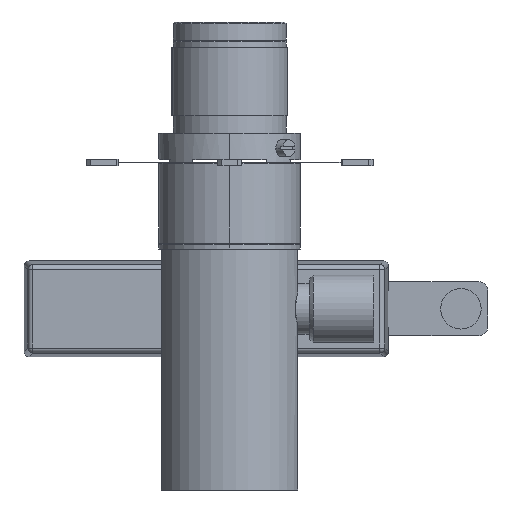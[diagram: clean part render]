
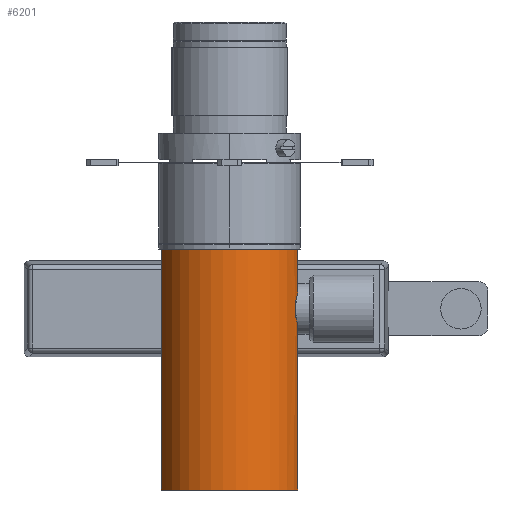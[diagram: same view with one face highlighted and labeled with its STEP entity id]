
A CAD part, front view. The second image highlights one B-rep face of the part: STEP entity #6201.
In plain terms, the highlighted cylindrical face has radius 42 mm (diameter 84 mm), a partial arc.
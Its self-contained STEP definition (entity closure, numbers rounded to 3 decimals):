
#83 = DIRECTION ( 'NONE',  ( 0., -1., 0. ) ) ;
#190 = VERTEX_POINT ( 'NONE', #6166 ) ;
#377 = VERTEX_POINT ( 'NONE', #5317 ) ;
#480 = DIRECTION ( 'NONE',  ( 0., -1., 0. ) ) ;
#533 = VECTOR ( 'NONE', #5853, 1000. ) ;
#638 = VERTEX_POINT ( 'NONE', #3543 ) ;
#886 = ORIENTED_EDGE ( 'NONE', *, *, #4080, .T. ) ;
#909 = CARTESIAN_POINT ( 'NONE',  ( 39.3, 105.157, 14.816 ) ) ;
#932 = CARTESIAN_POINT ( 'NONE',  ( 40.233, 98.511, 12.095 ) ) ;
#1127 = VERTEX_POINT ( 'NONE', #5018 ) ;
#1607 = EDGE_LOOP ( 'NONE', ( #3017, #7292, #3530, #7136, #5674, #2744, #7233, #886 ) ) ;
#1708 = CARTESIAN_POINT ( 'NONE',  ( 39.343, 104.431, 14.701 ) ) ;
#1855 = AXIS2_PLACEMENT_3D ( 'NONE', #6499, #8895, #7336 ) ;
#2089 = CARTESIAN_POINT ( 'NONE',  ( -40.5, 0., 11.124 ) ) ;
#2137 = CARTESIAN_POINT ( 'NONE',  ( 40.367, 117.026, 11.61 ) ) ;
#2170 = CARTESIAN_POINT ( 'NONE',  ( 39.3, 109.843, 14.816 ) ) ;
#2258 = VERTEX_POINT ( 'NONE', #6187 ) ;
#2659 = CYLINDRICAL_SURFACE ( 'NONE', #6218, 42. ) ;
#2744 = ORIENTED_EDGE ( 'NONE', *, *, #8864, .T. ) ;
#2773 = B_SPLINE_CURVE_WITH_KNOTS ( 'NONE', 3,
 ( #2170, #2911, #8501, #8566, #6914, #6067, #7684, #2879, #2137, #4556 ),
 .UNSPECIFIED., .F., .F.,
 ( 4, 2, 2, 2, 4 ),
 ( 0., 0.004, 0.005, 0.007, 0.009 ),
 .UNSPECIFIED. ) ;
#2879 = CARTESIAN_POINT ( 'NONE',  ( 40.236, 116.458, 12.053 ) ) ;
#2911 = CARTESIAN_POINT ( 'NONE',  ( 39.387, 111.296, 14.586 ) ) ;
#2918 = EDGE_CURVE ( 'NONE', #1127, #10145, #5899, .T. ) ;
#2940 = CARTESIAN_POINT ( 'NONE',  ( 40.5, 117.562, 11.124 ) ) ;
#2997 = CARTESIAN_POINT ( 'NONE',  ( -40.5, 142.5, 11.124 ) ) ;
#3017 = ORIENTED_EDGE ( 'NONE', *, *, #3098, .F. ) ;
#3098 = EDGE_CURVE ( 'NONE', #377, #638, #6268, .T. ) ;
#3107 = VERTEX_POINT ( 'NONE', #2089 ) ;
#3530 = ORIENTED_EDGE ( 'NONE', *, *, #2918, .F. ) ;
#3543 = CARTESIAN_POINT ( 'NONE',  ( 40.5, 0., 11.124 ) ) ;
#4023 = EDGE_CURVE ( 'NONE', #377, #10145, #6041, .T. ) ;
#4080 = EDGE_CURVE ( 'NONE', #3107, #638, #7269, .T. ) ;
#4556 = CARTESIAN_POINT ( 'NONE',  ( 40.5, 117.562, 11.124 ) ) ;
#4607 = CIRCLE ( 'NONE', #6917, 42. ) ;
#4679 = CARTESIAN_POINT ( 'NONE',  ( 0., 142.5, 0. ) ) ;
#5018 = CARTESIAN_POINT ( 'NONE',  ( 39.3, 109.843, 14.816 ) ) ;
#5317 = CARTESIAN_POINT ( 'NONE',  ( 40.5, 97.438, 11.124 ) ) ;
#5622 = CARTESIAN_POINT ( 'NONE',  ( 39.523, 102.682, 14.21 ) ) ;
#5674 = ORIENTED_EDGE ( 'NONE', *, *, #9835, .F. ) ;
#5684 = CARTESIAN_POINT ( 'NONE',  ( 39.978, 99.698, 12.893 ) ) ;
#5706 = CARTESIAN_POINT ( 'NONE',  ( 40.5, 97.438, 11.124 ) ) ;
#5853 = DIRECTION ( 'NONE',  ( 0., -1., 0. ) ) ;
#5899 = LINE ( 'NONE', #9938, #533 ) ;
#6041 = B_SPLINE_CURVE_WITH_KNOTS ( 'NONE', 3,
 ( #5706, #932, #5684, #8855, #8151, #9704, #5622, #8081, #1708, #909 ),
 .UNSPECIFIED., .F., .F.,
 ( 4, 2, 2, 2, 4 ),
 ( 0., 0.004, 0.005, 0.007, 0.009 ),
 .UNSPECIFIED. ) ;
#6058 = EDGE_CURVE ( 'NONE', #1127, #7630, #2773, .T. ) ;
#6067 = CARTESIAN_POINT ( 'NONE',  ( 39.988, 115.255, 12.845 ) ) ;
#6128 = CARTESIAN_POINT ( 'NONE',  ( 40.5, 142.5, 11.124 ) ) ;
#6166 = CARTESIAN_POINT ( 'NONE',  ( 40.5, 142.5, 11.124 ) ) ;
#6187 = CARTESIAN_POINT ( 'NONE',  ( -40.5, 142.5, 11.124 ) ) ;
#6201 = ADVANCED_FACE ( 'NONE', ( #6922 ), #2659, .T. ) ;
#6218 = AXIS2_PLACEMENT_3D ( 'NONE', #8842, #83, #9659 ) ;
#6268 = LINE ( 'NONE', #6128, #8045 ) ;
#6499 = CARTESIAN_POINT ( 'NONE',  ( 0., 0., 0. ) ) ;
#6765 = CARTESIAN_POINT ( 'NONE',  ( 40.5, 142.5, 11.124 ) ) ;
#6914 = CARTESIAN_POINT ( 'NONE',  ( 39.871, 114.626, 13.204 ) ) ;
#6917 = AXIS2_PLACEMENT_3D ( 'NONE', #4679, #9601, #10359 ) ;
#6922 = FACE_OUTER_BOUND ( 'NONE', #1607, .T. ) ;
#6959 = DIRECTION ( 'NONE',  ( 0., -1., 0. ) ) ;
#7136 = ORIENTED_EDGE ( 'NONE', *, *, #6058, .T. ) ;
#7233 = ORIENTED_EDGE ( 'NONE', *, *, #10097, .T. ) ;
#7245 = LINE ( 'NONE', #6765, #7490 ) ;
#7269 = CIRCLE ( 'NONE', #1855, 42. ) ;
#7292 = ORIENTED_EDGE ( 'NONE', *, *, #4023, .T. ) ;
#7336 = DIRECTION ( 'NONE',  ( 0., 0., 1. ) ) ;
#7490 = VECTOR ( 'NONE', #9961, 1000. ) ;
#7630 = VERTEX_POINT ( 'NONE', #2940 ) ;
#7684 = CARTESIAN_POINT ( 'NONE',  ( 40.049, 115.561, 12.655 ) ) ;
#8045 = VECTOR ( 'NONE', #480, 1000. ) ;
#8081 = CARTESIAN_POINT ( 'NONE',  ( 39.406, 103.722, 14.535 ) ) ;
#8151 = CARTESIAN_POINT ( 'NONE',  ( 39.661, 101.663, 13.822 ) ) ;
#8501 = CARTESIAN_POINT ( 'NONE',  ( 39.549, 112.672, 14.154 ) ) ;
#8566 = CARTESIAN_POINT ( 'NONE',  ( 39.814, 114.303, 13.373 ) ) ;
#8720 = CARTESIAN_POINT ( 'NONE',  ( 39.3, 105.157, 14.816 ) ) ;
#8842 = CARTESIAN_POINT ( 'NONE',  ( 0., 142.5, 0. ) ) ;
#8855 = CARTESIAN_POINT ( 'NONE',  ( 39.711, 101.328, 13.676 ) ) ;
#8864 = EDGE_CURVE ( 'NONE', #190, #2258, #4607, .T. ) ;
#8885 = VECTOR ( 'NONE', #6959, 1000. ) ;
#8895 = DIRECTION ( 'NONE',  ( 0., 1., 0. ) ) ;
#9601 = DIRECTION ( 'NONE',  ( 0., -1., 0. ) ) ;
#9659 = DIRECTION ( 'NONE',  ( 0., 0., -1. ) ) ;
#9704 = CARTESIAN_POINT ( 'NONE',  ( 39.567, 102.34, 14.089 ) ) ;
#9835 = EDGE_CURVE ( 'NONE', #190, #7630, #7245, .T. ) ;
#9938 = CARTESIAN_POINT ( 'NONE',  ( 39.3, 142.5, 14.816 ) ) ;
#9961 = DIRECTION ( 'NONE',  ( 0., -1., 0. ) ) ;
#10013 = LINE ( 'NONE', #2997, #8885 ) ;
#10097 = EDGE_CURVE ( 'NONE', #2258, #3107, #10013, .T. ) ;
#10145 = VERTEX_POINT ( 'NONE', #8720 ) ;
#10359 = DIRECTION ( 'NONE',  ( 0., 0., -1. ) ) ;
